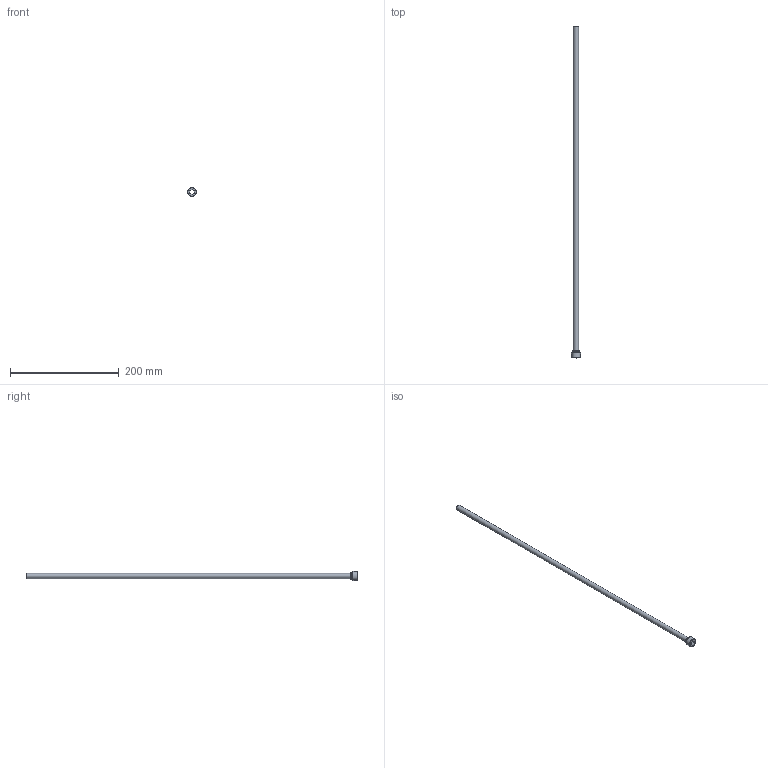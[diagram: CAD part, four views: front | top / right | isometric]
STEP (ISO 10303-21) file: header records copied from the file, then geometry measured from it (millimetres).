
FILE_DESCRIPTION(/* description */ (''),/* implementation_level */ '2;1');
FILE_NAME(/* name */ 'C:/Users/drich/Desktop/PT38-375-24 v1.step',/* time_stamp */ '2019-12-27T15:55:55-06:00',/* author */ (''),/* organization */ (''),/* preprocessor_version */ 'ST-DEVELOPER v18',/* originating_system */ 'Autodesk Translation Framework v8.12.0.6',/* authorisation */ '');
FILE_SCHEMA (('AUTOMOTIVE_DESIGN { 1 0 10303 214 3 1 1 }'));
Length unit declared in the file: inch
Products named in the file (1): PT38-375-24
Bounding box: 16.54 x 609.6 x 16.54 mm (x, y, z)
Volume: 9083.5 mm3; surface area: 35246.6 mm2
Topology: 1 solids, 1 shells, 30 faces, 71 edges, 45 vertices
Faces by surface type: plane 22, cylinder 4, torus 2, cone 2
Full cylindrical faces by diameter (mm): 8.636 x1, 9.5 x1, 11.938 x1, 16.537 x1
Entity records: 913 total; most frequent: DIRECTION 168, CARTESIAN_POINT 147, ORIENTED_EDGE 142, EDGE_CURVE 71, AXIS2_PLACEMENT_3D 66, VERTEX_POINT 45, LINE 36, VECTOR 36
